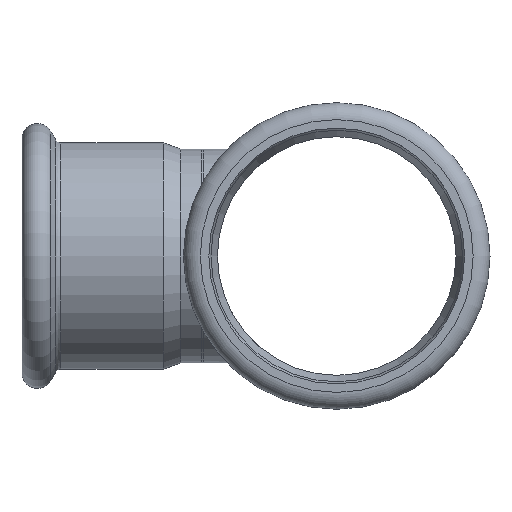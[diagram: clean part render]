
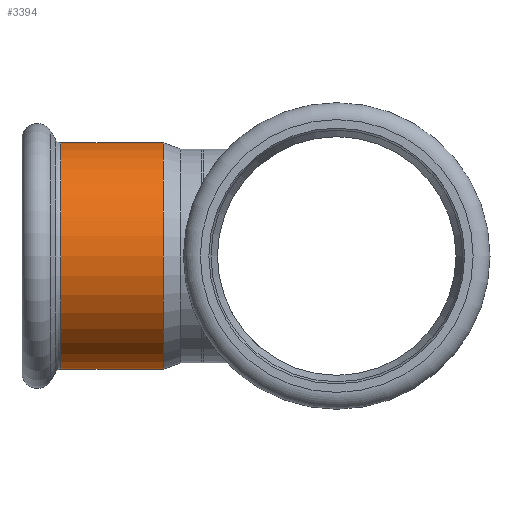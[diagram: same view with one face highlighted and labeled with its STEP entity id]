
A CAD part, left-side view. The second image highlights one B-rep face of the part: STEP entity #3394.
In plain terms, the highlighted cylindrical face has radius 40.3 mm (diameter 80.6 mm), a full revolution.
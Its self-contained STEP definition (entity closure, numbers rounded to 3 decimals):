
#3343=CARTESIAN_POINT('',(-50.715,40.3,0.));
#3344=VERTEX_POINT('',#3343);
#3345=CARTESIAN_POINT('',(-50.715,0.,0.0));
#3346=DIRECTION('',(-1.0,0.0,0.0));
#3347=DIRECTION('',(0.0,-1.0,0.0));
#3348=AXIS2_PLACEMENT_3D('',#3345,#3346,#3347);
#3349=CIRCLE('',#3348,40.3);
#3350=EDGE_CURVE('',#3344,#3344,#3349,.T.);
#3375=CARTESIAN_POINT('',(-33.009,0.,0.0));
#3376=DIRECTION('',(1.0,0.,0.0));
#3377=DIRECTION('',(0.0,1.0,0.0));
#3378=AXIS2_PLACEMENT_3D('',#3375,#3376,#3377);
#3379=CYLINDRICAL_SURFACE('',#3378,40.3);
#3380=CARTESIAN_POINT('',(-14.147,40.3,0.0));
#3381=VERTEX_POINT('',#3380);
#3382=CARTESIAN_POINT('',(-14.147,0.,0.0));
#3383=DIRECTION('',(1.0,0.0,0.0));
#3384=DIRECTION('',(0.0,1.0,0.0));
#3385=AXIS2_PLACEMENT_3D('',#3382,#3383,#3384);
#3386=CIRCLE('',#3385,40.3);
#3387=EDGE_CURVE('',#3381,#3381,#3386,.T.);
#3388=ORIENTED_EDGE('',*,*,#3387,.F.);
#3389=EDGE_LOOP('',(#3388));
#3390=FACE_OUTER_BOUND('',#3389,.T.);
#3391=ORIENTED_EDGE('',*,*,#3350,.F.);
#3392=EDGE_LOOP('',(#3391));
#3393=FACE_BOUND('',#3392,.T.);
#3394=ADVANCED_FACE('',(#3390,#3393),#3379,.T.);
